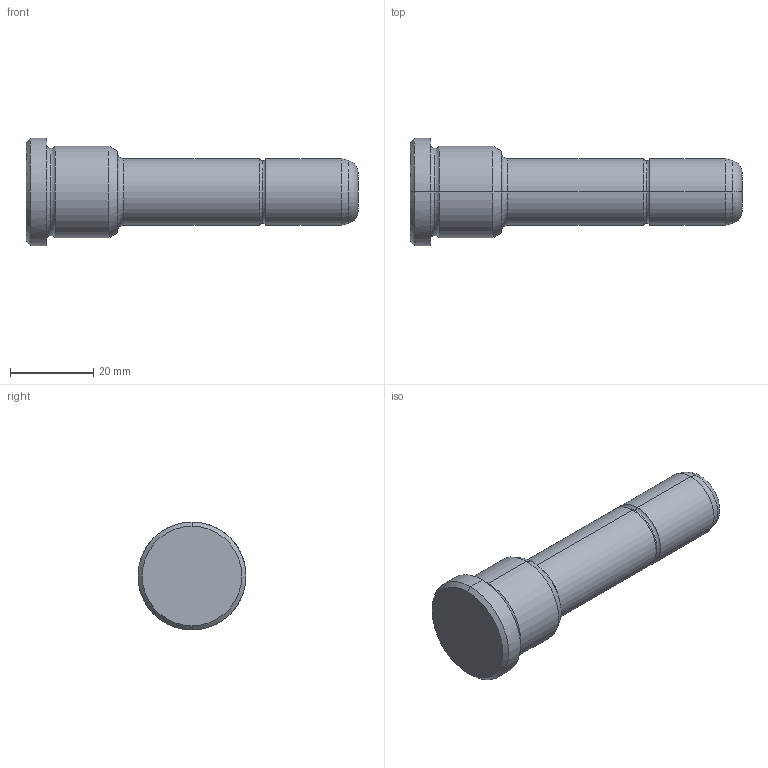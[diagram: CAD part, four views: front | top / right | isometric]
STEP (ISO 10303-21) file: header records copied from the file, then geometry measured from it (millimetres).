
FILE_DESCRIPTION(('CATIA V5 STEP Exchange'),'2;1');
FILE_NAME('C:\Users\Utente\Desktop\IO LAVORO\3D X SITO CF\X SITO\PLASTICA\351\351-16X22X80.stp','2021-08-18T10:57:29+00:00',('none'),('none'),'CATIA Version 5 Release 20 GA (IN-10)','CATIA V5 STEP AP203','none');
FILE_SCHEMA(('CONFIG_CONTROL_DESIGN'));
Length unit declared in the file: millimetre
Products named in the file (1): 351-16X22X80
Bounding box: 80 x 26 x 26 mm (x, y, z)
Volume: 20466.9 mm3; surface area: 5363.8 mm2
Topology: 1 solids, 1 shells, 30 faces, 86 edges, 60 vertices
Faces by surface type: torus 12, cylinder 8, cone 6, plane 4
Entity records: 1112 total; most frequent: CARTESIAN_POINT 289, ORIENTED_EDGE 172, DIRECTION 138, AXIS2_PLACEMENT_3D 95, EDGE_CURVE 86, CIRCLE 64, VERTEX_POINT 60, EDGE_LOOP 32
